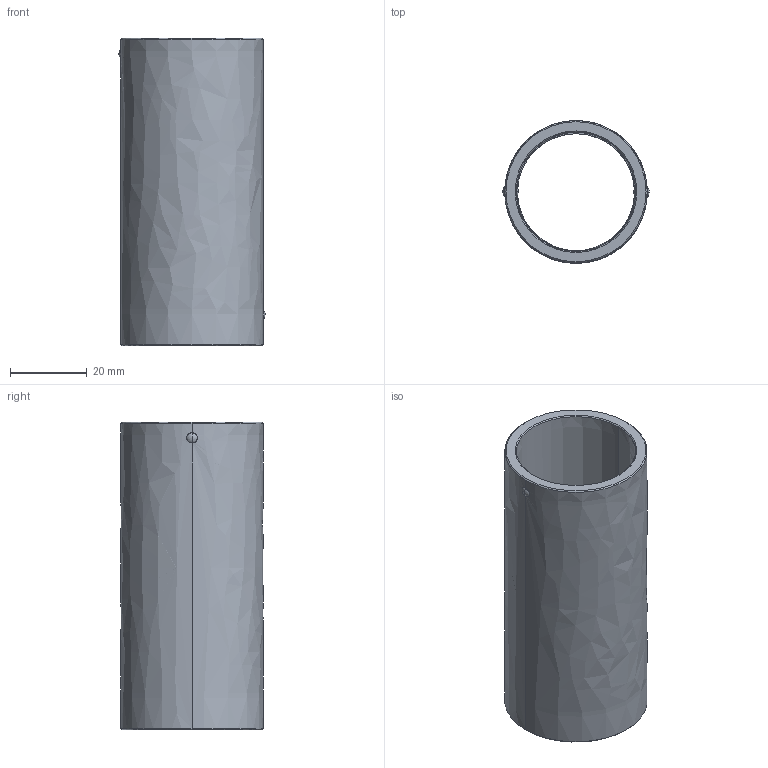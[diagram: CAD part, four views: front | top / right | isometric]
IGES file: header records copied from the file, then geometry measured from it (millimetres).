
Start section: START RECORD GO HERE.
Global section: file name: 730-30x80.igs; native system: DASSAULT SYSTEMES CATIA V5 R20 - www.3ds.com; preprocessor: CATIA Version 5 Release 20 ; author: Utente; organization: NB04-ASUS; date: 20210107.171305; units: millimetre
Bounding box: 38 x 37 x 80 mm (x, y, z)
Surface area: 18051 mm2 (no closed solid volume)
Topology: 0 solids, 0 shells, 44 faces, 240 edges, 240 vertices
Faces by surface type: revolution 36, plane 8
